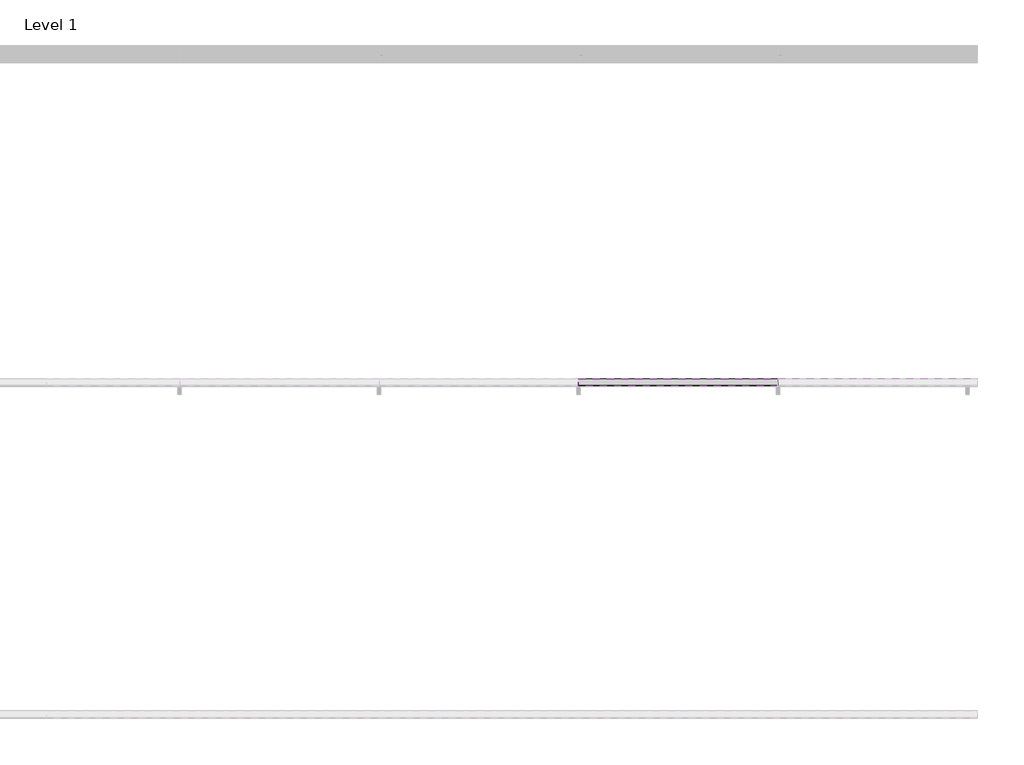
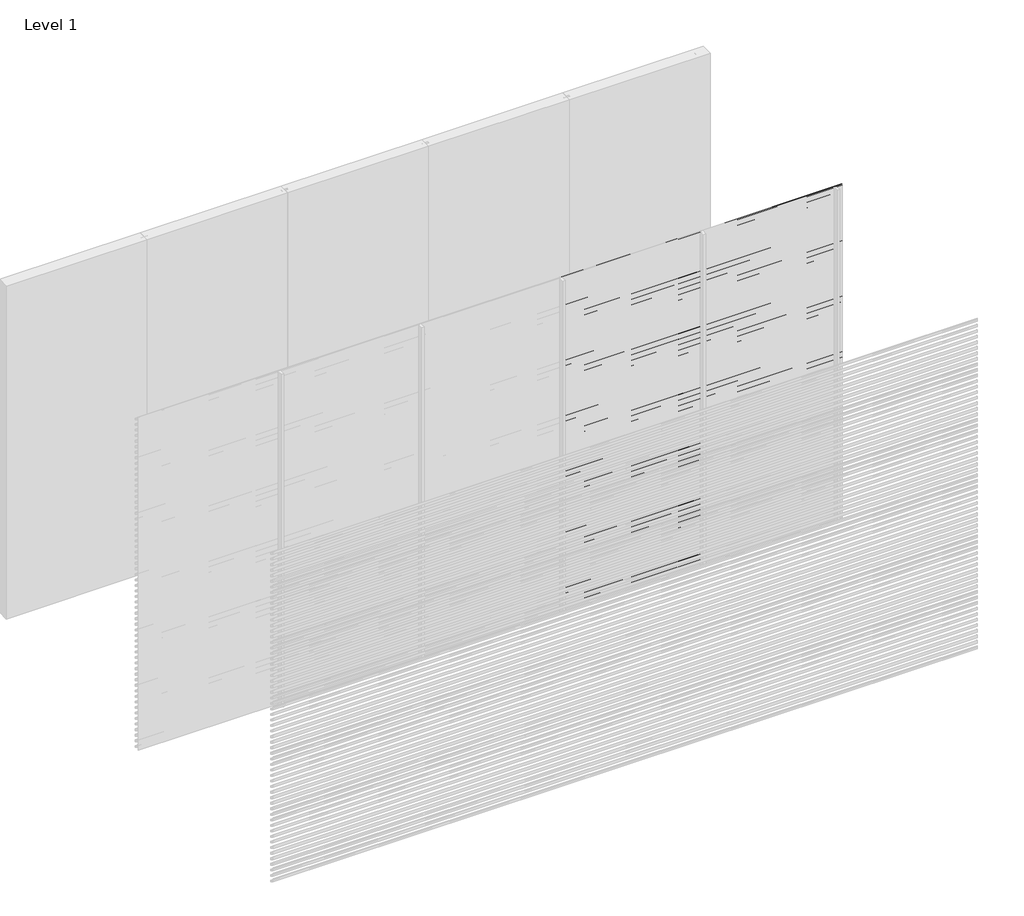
# One storey, part 12 of 16: 93 proxies.
"""IFC4 building model written with IfcOpenShell, lengths in millimetres."""

import ifcopenshell
import ifcopenshell.guid

model = None  # the IFC model being written
_history = None  # IfcOwnerHistory: only IFC2X3 demands one
_inside = {}  # id of a spatial element -> (the spatial element, [elements in it])
_under = {}  # id of a project, library or spatial element -> (it, [spatial elements below it])
_declared = {}  # id of a project -> (the project, [libraries it declares])
_typed = {}  # id of a type object -> (the type object, [elements of that type])
_made_of = {}  # id of a material, layer set ... -> (it, [elements and type objects made of it])


def new_model(schema):
    """Start an empty IFC model of exactly this schema.

    Asked for "IFC4X3", IfcOpenShell would pick the latest addendum, in which some entities
    have other attributes; the version numbers below select the first issue.
    IFC2X3 requires an IfcOwnerHistory on every rooted entity: one is made here for all.
    """
    global model, _history
    if schema == "IFC4X3":
        model = ifcopenshell.file(schema_version=(4, 3, 0, 0))
    else:
        model = ifcopenshell.file(schema=schema)
    _inside.clear()
    _under.clear()
    _declared.clear()
    _typed.clear()
    _made_of.clear()
    _history = None
    if model.schema == "IFC2X3":
        org = make("IfcOrganization", Name="unknown")
        user = make(
            "IfcPersonAndOrganization",
            ThePerson=make("IfcPerson", FamilyName="unknown"),
            TheOrganization=org,
        )
        app = make(
            "IfcApplication",
            ApplicationDeveloper=org,
            Version="unknown",
            ApplicationFullName="unknown",
            ApplicationIdentifier="unknown",
        )
        _history = make(
            "IfcOwnerHistory",
            OwningUser=user,
            OwningApplication=app,
            ChangeAction="ADDED",
            CreationDate=0,
        )
    return model


def make(cls, **values):
    """One entity of the class cls with the attributes given. An attribute that is None is left unset."""
    return model.create_entity(
        cls, **{name: value for name, value in values.items() if value is not None}
    )


def rooted(cls, **values):
    """An entity with a GlobalId (a new one), such as an element, a storey or a relation."""
    return make(cls, GlobalId=ifcopenshell.guid.new(), OwnerHistory=_history, **values)


def si_unit(unit_type, name, prefix=None):
    """IfcSIUnit, for example si_unit("LENGTHUNIT", "METRE", prefix="MILLI")."""
    return make("IfcSIUnit", UnitType=unit_type, Prefix=prefix, Name=name)


def assignment(units):
    """IfcUnitAssignment: the units of a project."""
    return None if units is None else make("IfcUnitAssignment", Units=units)


def point(xyz):
    """IfcCartesianPoint."""
    return None if xyz is None else make("IfcCartesianPoint", Coordinates=xyz)


def direction(xyz):
    """IfcDirection."""
    return None if xyz is None else make("IfcDirection", DirectionRatios=xyz)


def frame(location, z_axis=None, x_axis=None):
    """IfcAxis2Placement3D, a coordinate frame: its origin and axes. An axis left out is left unset."""
    return make(
        "IfcAxis2Placement3D",
        Location=point(location),
        Axis=direction(z_axis),
        RefDirection=direction(x_axis),
    )


def origin():
    """The frame at (0, 0, 0) with its axes left unset."""
    return frame((0.0, 0.0, 0.0))


def place(relative_to, where):
    """IfcLocalPlacement: puts the frame where relative to a parent placement (None: the world)."""
    return make(
        "IfcLocalPlacement", PlacementRelTo=relative_to, RelativePlacement=where
    )


def context(
    kind, dimensions, precision=None, world=None, true_north=None, identifier=None
):
    """IfcGeometricRepresentationContext, for example the 3D "Model" context."""
    return make(
        "IfcGeometricRepresentationContext",
        ContextIdentifier=identifier,
        ContextType=kind,
        CoordinateSpaceDimension=dimensions,
        Precision=precision,
        WorldCoordinateSystem=world,
        TrueNorth=true_north,
    )


def project(units=None, contexts=None):
    """IfcProject with its units and contexts."""
    return rooted(
        "IfcProject",
        Name="project",
        RepresentationContexts=contexts,
        UnitsInContext=assignment(units),
    )


def spatial(cls, under=None, at=None, **own):
    """A site, building, storey or space (cls), placed at a placement, below another one or the project."""
    s = rooted(cls, ObjectPlacement=at, **own)
    if under is not None:
        _under.setdefault(under.id(), (under, []))[1].append(s)
    return s


def polyline(points):
    """IfcPolyline through the points."""
    return make("IfcPolyline", Points=[point(p) for p in points])


def outline(outer, holes=None, kind="AREA"):
    """IfcArbitraryClosedProfileDef: a profile drawn as a closed curve; with holes, ...WithVoids."""
    if holes is None:
        return make("IfcArbitraryClosedProfileDef", ProfileType=kind, OuterCurve=outer)
    return make(
        "IfcArbitraryProfileDefWithVoids",
        ProfileType=kind,
        OuterCurve=outer,
        InnerCurves=holes,
    )


def extrude(swept, where, along, depth):
    """IfcExtrudedAreaSolid: the profile swept, set in the frame where, extruded along a direction by depth."""
    return make(
        "IfcExtrudedAreaSolid",
        SweptArea=swept,
        Position=where,
        ExtrudedDirection=direction(along),
        Depth=depth,
    )


def shape(context_of_items, identifier, shape_type, items):
    """IfcShapeRepresentation: the items that make up one representation, for example the "Body"."""
    return make(
        "IfcShapeRepresentation",
        ContextOfItems=context_of_items,
        RepresentationIdentifier=identifier,
        RepresentationType=shape_type,
        Items=items,
    )


def made_of(thing, what):
    """Note that an element or type object is made of a material, layer set ...; save() writes the relation."""
    if what is not None:
        _made_of.setdefault(what.id(), (what, []))[1].append(thing)
    return thing


def element(
    cls,
    number,
    at=None,
    inside=None,
    cuts=None,
    type_object=None,
    material=None,
    context=None,
    identifier="Body",
    shape_type=None,
    held_by="IfcProductDefinitionShape",
    body=None,
    shapes=None,
    **own,
):
    """One element of the class cls, such as IfcWall. Its Tag is "e" and its number.

    at: its placement. inside: the storey or other place that contains it. cuts: it is an
    opening in that element (IfcRelVoidsElement). A single representation is given by context,
    identifier, shape_type and body (its items); several are given by shapes. held_by: the class
    of the entity that holds the representations. save() writes the other relations.
    """
    e = rooted(cls, Tag="e%d" % number, ObjectPlacement=at, **own)
    if body is not None:
        shapes = [shape(context, identifier, shape_type, body)]
    if shapes is not None:
        e.Representation = make(held_by, Representations=shapes)
    if inside is not None:
        _inside.setdefault(inside.id(), (inside, []))[1].append(e)
    if cuts is not None:
        rooted(
            "IfcRelVoidsElement", RelatingBuildingElement=cuts, RelatedOpeningElement=e
        )
    if type_object is not None:
        _typed.setdefault(type_object.id(), (type_object, []))[1].append(e)
    return made_of(e, material)


def aggregate(whole, parts):
    """IfcRelAggregates: a whole, such as a stair, and the parts it consists of."""
    return rooted("IfcRelAggregates", RelatingObject=whole, RelatedObjects=parts)


def save(model, path):
    """Write the relations noted so far, then the file.

    IfcRelAggregates (storeys below a building ...), IfcRelContainedInSpatialStructure (elements
    in a storey), IfcRelDefinesByType, IfcRelAssociatesMaterial and IfcRelDeclares: one each for
    every whole, place, type object, material and project.
    """
    for whole, parts in _under.values():
        aggregate(whole, parts)
    for where, things in _inside.values():
        rooted(
            "IfcRelContainedInSpatialStructure",
            RelatedElements=things,
            RelatingStructure=where,
        )
    for kind, things in _typed.values():
        rooted("IfcRelDefinesByType", RelatedObjects=things, RelatingType=kind)
    for what, things in _made_of.values():
        rooted("IfcRelAssociatesMaterial", RelatedObjects=things, RelatingMaterial=what)
    for by, libraries in _declared.values():
        rooted("IfcRelDeclares", RelatingContext=by, RelatedDefinitions=libraries)
    model.write(path)


model = new_model("IFC4")

# Units and contexts
model_context = context("Model", 3, world=origin())
ifc_project = project(units=[si_unit("LENGTHUNIT", "METRE", prefix="MILLI")], contexts=[model_context])

# Site, building, storey
site = spatial("IfcSite", under=ifc_project)
building = spatial("IfcBuilding", under=site)
storey = spatial("IfcBuildingStorey", under=building, Name="Level 1", Elevation=0.0)

# Proxies
placement = place(None, origin())
element("IfcBuildingElementProxy", 1, Name="Wall Sweeps", at=placement, inside=storey, context=model_context, shape_type="SweptSolid", body=[
    extrude(outline(polyline([(-5995.0, 50.0), (-5995.0, 39.6352854), (-5954.0, 15.0), (-5954.0, 0.0), (-5997.0, 25.8370066), (-5997.0, 50.0), (-5995.0, 50.0)])), frame((2400.0, 0.0, 0.0), z_axis=(1.0, 0.0, 0.0), x_axis=(0.0, 1.0, 0.0)), (0.0, 0.0, 1.0), 1200.0),
])
element("IfcBuildingElementProxy", 2, Name="Wall Sweeps", at=placement, inside=storey, context=model_context, shape_type="SweptSolid", body=[
    extrude(outline(polyline([(-5995.0, 3000.0), (-5995.0, 2989.6352854), (-5954.0, 2965.0), (-5954.0, 2950.0), (-5997.0, 2975.8370066), (-5997.0, 3000.0), (-5995.0, 3000.0)])), frame((3600.0, 0.0, 0.0), z_axis=(1.0, 0.0, 0.0), x_axis=(0.0, 1.0, 0.0)), (0.0, 0.0, 1.0), 1200.0),
])
element("IfcBuildingElementProxy", 3, Name="Wall Sweeps", at=placement, inside=storey, context=model_context, shape_type="SweptSolid", body=[
    extrude(outline(polyline([(-5995.0, 2950.0), (-5995.0, 2939.6352854), (-5954.0, 2915.0), (-5954.0, 2900.0), (-5997.0, 2925.8370066), (-5997.0, 2950.0), (-5995.0, 2950.0)])), frame((3600.0, 0.0, 0.0), z_axis=(1.0, 0.0, 0.0), x_axis=(0.0, 1.0, 0.0)), (0.0, 0.0, 1.0), 1200.0),
])
element("IfcBuildingElementProxy", 4, Name="Wall Sweeps", at=placement, inside=storey, context=model_context, shape_type="SweptSolid", body=[
    extrude(outline(polyline([(-5995.0, 2900.0), (-5995.0, 2889.6352854), (-5954.0, 2865.0), (-5954.0, 2850.0), (-5997.0, 2875.8370066), (-5997.0, 2900.0), (-5995.0, 2900.0)])), frame((3600.0, 0.0, 0.0), z_axis=(1.0, 0.0, 0.0), x_axis=(0.0, 1.0, 0.0)), (0.0, 0.0, 1.0), 1200.0),
])
element("IfcBuildingElementProxy", 5, Name="Wall Sweeps", at=placement, inside=storey, context=model_context, shape_type="SweptSolid", body=[
    extrude(outline(polyline([(-5995.0, 2850.0), (-5995.0, 2839.6352854), (-5954.0, 2815.0), (-5954.0, 2800.0), (-5997.0, 2825.8370066), (-5997.0, 2850.0), (-5995.0, 2850.0)])), frame((3600.0, 0.0, 0.0), z_axis=(1.0, 0.0, 0.0), x_axis=(0.0, 1.0, 0.0)), (0.0, 0.0, 1.0), 1200.0),
])
element("IfcBuildingElementProxy", 6, Name="Wall Sweeps", at=placement, inside=storey, context=model_context, shape_type="SweptSolid", body=[
    extrude(outline(polyline([(-5995.0, 2800.0), (-5995.0, 2789.6352854), (-5954.0, 2765.0), (-5954.0, 2750.0), (-5997.0, 2775.8370066), (-5997.0, 2800.0), (-5995.0, 2800.0)])), frame((3600.0, 0.0, 0.0), z_axis=(1.0, 0.0, 0.0), x_axis=(0.0, 1.0, 0.0)), (0.0, 0.0, 1.0), 1200.0),
])
element("IfcBuildingElementProxy", 7, Name="Wall Sweeps", at=placement, inside=storey, context=model_context, shape_type="SweptSolid", body=[
    extrude(outline(polyline([(-5995.0, 2750.0), (-5995.0, 2739.6352854), (-5954.0, 2715.0), (-5954.0, 2700.0), (-5997.0, 2725.8370066), (-5997.0, 2750.0), (-5995.0, 2750.0)])), frame((3600.0, 0.0, 0.0), z_axis=(1.0, 0.0, 0.0), x_axis=(0.0, 1.0, 0.0)), (0.0, 0.0, 1.0), 1200.0),
])
element("IfcBuildingElementProxy", 8, Name="Wall Sweeps", at=placement, inside=storey, context=model_context, shape_type="SweptSolid", body=[
    extrude(outline(polyline([(-5995.0, 2700.0), (-5995.0, 2689.6352854), (-5954.0, 2665.0), (-5954.0, 2650.0), (-5997.0, 2675.8370066), (-5997.0, 2700.0), (-5995.0, 2700.0)])), frame((3600.0, 0.0, 0.0), z_axis=(1.0, 0.0, 0.0), x_axis=(0.0, 1.0, 0.0)), (0.0, 0.0, 1.0), 1200.0),
])
element("IfcBuildingElementProxy", 9, Name="Wall Sweeps", at=placement, inside=storey, context=model_context, shape_type="SweptSolid", body=[
    extrude(outline(polyline([(-5995.0, 2650.0), (-5995.0, 2639.6352854), (-5954.0, 2615.0), (-5954.0, 2600.0), (-5997.0, 2625.8370066), (-5997.0, 2650.0), (-5995.0, 2650.0)])), frame((3600.0, 0.0, 0.0), z_axis=(1.0, 0.0, 0.0), x_axis=(0.0, 1.0, 0.0)), (0.0, 0.0, 1.0), 1200.0),
])
element("IfcBuildingElementProxy", 10, Name="Wall Sweeps", at=placement, inside=storey, context=model_context, shape_type="SweptSolid", body=[
    extrude(outline(polyline([(-5995.0, 2600.0), (-5995.0, 2589.6352854), (-5954.0, 2565.0), (-5954.0, 2550.0), (-5997.0, 2575.8370066), (-5997.0, 2600.0), (-5995.0, 2600.0)])), frame((3600.0, 0.0, 0.0), z_axis=(1.0, 0.0, 0.0), x_axis=(0.0, 1.0, 0.0)), (0.0, 0.0, 1.0), 1200.0),
])
element("IfcBuildingElementProxy", 11, Name="Wall Sweeps", at=placement, inside=storey, context=model_context, shape_type="SweptSolid", body=[
    extrude(outline(polyline([(-5995.0, 2550.0), (-5995.0, 2539.6352854), (-5954.0, 2515.0), (-5954.0, 2500.0), (-5997.0, 2525.8370066), (-5997.0, 2550.0), (-5995.0, 2550.0)])), frame((3600.0, 0.0, 0.0), z_axis=(1.0, 0.0, 0.0), x_axis=(0.0, 1.0, 0.0)), (0.0, 0.0, 1.0), 1200.0),
])
element("IfcBuildingElementProxy", 12, Name="Wall Sweeps", at=placement, inside=storey, context=model_context, shape_type="SweptSolid", body=[
    extrude(outline(polyline([(-5995.0, 2500.0), (-5995.0, 2489.6352854), (-5954.0, 2465.0), (-5954.0, 2450.0), (-5997.0, 2475.8370066), (-5997.0, 2500.0), (-5995.0, 2500.0)])), frame((3600.0, 0.0, 0.0), z_axis=(1.0, 0.0, 0.0), x_axis=(0.0, 1.0, 0.0)), (0.0, 0.0, 1.0), 1200.0),
])
element("IfcBuildingElementProxy", 13, Name="Wall Sweeps", at=placement, inside=storey, context=model_context, shape_type="SweptSolid", body=[
    extrude(outline(polyline([(-5995.0, 2450.0), (-5995.0, 2439.6352854), (-5954.0, 2415.0), (-5954.0, 2400.0), (-5997.0, 2425.8370066), (-5997.0, 2450.0), (-5995.0, 2450.0)])), frame((3600.0, 0.0, 0.0), z_axis=(1.0, 0.0, 0.0), x_axis=(0.0, 1.0, 0.0)), (0.0, 0.0, 1.0), 1200.0),
])
element("IfcBuildingElementProxy", 14, Name="Wall Sweeps", at=placement, inside=storey, context=model_context, shape_type="SweptSolid", body=[
    extrude(outline(polyline([(-5995.0, 2400.0), (-5995.0, 2389.6352854), (-5954.0, 2365.0), (-5954.0, 2350.0), (-5997.0, 2375.8370066), (-5997.0, 2400.0), (-5995.0, 2400.0)])), frame((3600.0, 0.0, 0.0), z_axis=(1.0, 0.0, 0.0), x_axis=(0.0, 1.0, 0.0)), (0.0, 0.0, 1.0), 1200.0),
])
element("IfcBuildingElementProxy", 15, Name="Wall Sweeps", at=placement, inside=storey, context=model_context, shape_type="SweptSolid", body=[
    extrude(outline(polyline([(-5995.0, 2350.0), (-5995.0, 2339.6352854), (-5954.0, 2315.0), (-5954.0, 2300.0), (-5997.0, 2325.8370066), (-5997.0, 2350.0), (-5995.0, 2350.0)])), frame((3600.0, 0.0, 0.0), z_axis=(1.0, 0.0, 0.0), x_axis=(0.0, 1.0, 0.0)), (0.0, 0.0, 1.0), 1200.0),
])
element("IfcBuildingElementProxy", 16, Name="Wall Sweeps", at=placement, inside=storey, context=model_context, shape_type="SweptSolid", body=[
    extrude(outline(polyline([(-5995.0, 2300.0), (-5995.0, 2289.6352854), (-5954.0, 2265.0), (-5954.0, 2250.0), (-5997.0, 2275.8370066), (-5997.0, 2300.0), (-5995.0, 2300.0)])), frame((3600.0, 0.0, 0.0), z_axis=(1.0, 0.0, 0.0), x_axis=(0.0, 1.0, 0.0)), (0.0, 0.0, 1.0), 1200.0),
])
element("IfcBuildingElementProxy", 17, Name="Wall Sweeps", at=placement, inside=storey, context=model_context, shape_type="SweptSolid", body=[
    extrude(outline(polyline([(-5995.0, 2250.0), (-5995.0, 2239.6352854), (-5954.0, 2215.0), (-5954.0, 2200.0), (-5997.0, 2225.8370066), (-5997.0, 2250.0), (-5995.0, 2250.0)])), frame((3600.0, 0.0, 0.0), z_axis=(1.0, 0.0, 0.0), x_axis=(0.0, 1.0, 0.0)), (0.0, 0.0, 1.0), 1200.0),
])
element("IfcBuildingElementProxy", 18, Name="Wall Sweeps", at=placement, inside=storey, context=model_context, shape_type="SweptSolid", body=[
    extrude(outline(polyline([(-5995.0, 2200.0), (-5995.0, 2189.6352854), (-5954.0, 2165.0), (-5954.0, 2150.0), (-5997.0, 2175.8370066), (-5997.0, 2200.0), (-5995.0, 2200.0)])), frame((3600.0, 0.0, 0.0), z_axis=(1.0, 0.0, 0.0), x_axis=(0.0, 1.0, 0.0)), (0.0, 0.0, 1.0), 1200.0),
])
element("IfcBuildingElementProxy", 19, Name="Wall Sweeps", at=placement, inside=storey, context=model_context, shape_type="SweptSolid", body=[
    extrude(outline(polyline([(-5995.0, 2150.0), (-5995.0, 2139.6352854), (-5954.0, 2115.0), (-5954.0, 2100.0), (-5997.0, 2125.8370066), (-5997.0, 2150.0), (-5995.0, 2150.0)])), frame((3600.0, 0.0, 0.0), z_axis=(1.0, 0.0, 0.0), x_axis=(0.0, 1.0, 0.0)), (0.0, 0.0, 1.0), 1200.0),
])
element("IfcBuildingElementProxy", 20, Name="Wall Sweeps", at=placement, inside=storey, context=model_context, shape_type="SweptSolid", body=[
    extrude(outline(polyline([(-5995.0, 2100.0), (-5995.0, 2089.6352854), (-5954.0, 2065.0), (-5954.0, 2050.0), (-5997.0, 2075.8370066), (-5997.0, 2100.0), (-5995.0, 2100.0)])), frame((3600.0, 0.0, 0.0), z_axis=(1.0, 0.0, 0.0), x_axis=(0.0, 1.0, 0.0)), (0.0, 0.0, 1.0), 1200.0),
])
element("IfcBuildingElementProxy", 21, Name="Wall Sweeps", at=placement, inside=storey, context=model_context, shape_type="SweptSolid", body=[
    extrude(outline(polyline([(-5995.0, 2050.0), (-5995.0, 2039.6352854), (-5954.0, 2015.0), (-5954.0, 2000.0), (-5997.0, 2025.8370066), (-5997.0, 2050.0), (-5995.0, 2050.0)])), frame((3600.0, 0.0, 0.0), z_axis=(1.0, 0.0, 0.0), x_axis=(0.0, 1.0, 0.0)), (0.0, 0.0, 1.0), 1200.0),
])
element("IfcBuildingElementProxy", 22, Name="Wall Sweeps", at=placement, inside=storey, context=model_context, shape_type="SweptSolid", body=[
    extrude(outline(polyline([(-5995.0, 2000.0), (-5995.0, 1989.6352854), (-5954.0, 1965.0), (-5954.0, 1950.0), (-5997.0, 1975.8370066), (-5997.0, 2000.0), (-5995.0, 2000.0)])), frame((3600.0, 0.0, 0.0), z_axis=(1.0, 0.0, 0.0), x_axis=(0.0, 1.0, 0.0)), (0.0, 0.0, 1.0), 1200.0),
])
element("IfcBuildingElementProxy", 23, Name="Wall Sweeps", at=placement, inside=storey, context=model_context, shape_type="SweptSolid", body=[
    extrude(outline(polyline([(-5995.0, 1950.0), (-5995.0, 1939.6352854), (-5954.0, 1915.0), (-5954.0, 1900.0), (-5997.0, 1925.8370066), (-5997.0, 1950.0), (-5995.0, 1950.0)])), frame((3600.0, 0.0, 0.0), z_axis=(1.0, 0.0, 0.0), x_axis=(0.0, 1.0, 0.0)), (0.0, 0.0, 1.0), 1200.0),
])
element("IfcBuildingElementProxy", 24, Name="Wall Sweeps", at=placement, inside=storey, context=model_context, shape_type="SweptSolid", body=[
    extrude(outline(polyline([(-5995.0, 1900.0), (-5995.0, 1889.6352854), (-5954.0, 1865.0), (-5954.0, 1850.0), (-5997.0, 1875.8370066), (-5997.0, 1900.0), (-5995.0, 1900.0)])), frame((3600.0, 0.0, 0.0), z_axis=(1.0, 0.0, 0.0), x_axis=(0.0, 1.0, 0.0)), (0.0, 0.0, 1.0), 1200.0),
])
element("IfcBuildingElementProxy", 25, Name="Wall Sweeps", at=placement, inside=storey, context=model_context, shape_type="SweptSolid", body=[
    extrude(outline(polyline([(-5995.0, 1850.0), (-5995.0, 1839.6352854), (-5954.0, 1815.0), (-5954.0, 1800.0), (-5997.0, 1825.8370066), (-5997.0, 1850.0), (-5995.0, 1850.0)])), frame((3600.0, 0.0, 0.0), z_axis=(1.0, 0.0, 0.0), x_axis=(0.0, 1.0, 0.0)), (0.0, 0.0, 1.0), 1200.0),
])
element("IfcBuildingElementProxy", 26, Name="Wall Sweeps", at=placement, inside=storey, context=model_context, shape_type="SweptSolid", body=[
    extrude(outline(polyline([(-5995.0, 1800.0), (-5995.0, 1789.6352854), (-5954.0, 1765.0), (-5954.0, 1750.0), (-5997.0, 1775.8370066), (-5997.0, 1800.0), (-5995.0, 1800.0)])), frame((3600.0, 0.0, 0.0), z_axis=(1.0, 0.0, 0.0), x_axis=(0.0, 1.0, 0.0)), (0.0, 0.0, 1.0), 1200.0),
])
element("IfcBuildingElementProxy", 27, Name="Wall Sweeps", at=placement, inside=storey, context=model_context, shape_type="SweptSolid", body=[
    extrude(outline(polyline([(-5995.0, 1750.0), (-5995.0, 1739.6352854), (-5954.0, 1715.0), (-5954.0, 1700.0), (-5997.0, 1725.8370066), (-5997.0, 1750.0), (-5995.0, 1750.0)])), frame((3600.0, 0.0, 0.0), z_axis=(1.0, 0.0, 0.0), x_axis=(0.0, 1.0, 0.0)), (0.0, 0.0, 1.0), 1200.0),
])
element("IfcBuildingElementProxy", 28, Name="Wall Sweeps", at=placement, inside=storey, context=model_context, shape_type="SweptSolid", body=[
    extrude(outline(polyline([(-5995.0, 1700.0), (-5995.0, 1689.6352854), (-5954.0, 1665.0), (-5954.0, 1650.0), (-5997.0, 1675.8370066), (-5997.0, 1700.0), (-5995.0, 1700.0)])), frame((3600.0, 0.0, 0.0), z_axis=(1.0, 0.0, 0.0), x_axis=(0.0, 1.0, 0.0)), (0.0, 0.0, 1.0), 1200.0),
])
element("IfcBuildingElementProxy", 29, Name="Wall Sweeps", at=placement, inside=storey, context=model_context, shape_type="SweptSolid", body=[
    extrude(outline(polyline([(-5995.0, 1650.0), (-5995.0, 1639.6352854), (-5954.0, 1615.0), (-5954.0, 1600.0), (-5997.0, 1625.8370066), (-5997.0, 1650.0), (-5995.0, 1650.0)])), frame((3600.0, 0.0, 0.0), z_axis=(1.0, 0.0, 0.0), x_axis=(0.0, 1.0, 0.0)), (0.0, 0.0, 1.0), 1200.0),
])
element("IfcBuildingElementProxy", 30, Name="Wall Sweeps", at=placement, inside=storey, context=model_context, shape_type="SweptSolid", body=[
    extrude(outline(polyline([(-5995.0, 1600.0), (-5995.0, 1589.6352854), (-5954.0, 1565.0), (-5954.0, 1550.0), (-5997.0, 1575.8370066), (-5997.0, 1600.0), (-5995.0, 1600.0)])), frame((3600.0, 0.0, 0.0), z_axis=(1.0, 0.0, 0.0), x_axis=(0.0, 1.0, 0.0)), (0.0, 0.0, 1.0), 1200.0),
])
element("IfcBuildingElementProxy", 31, Name="Wall Sweeps", at=placement, inside=storey, context=model_context, shape_type="SweptSolid", body=[
    extrude(outline(polyline([(-5995.0, 1550.0), (-5995.0, 1539.6352854), (-5954.0, 1515.0), (-5954.0, 1500.0), (-5997.0, 1525.8370066), (-5997.0, 1550.0), (-5995.0, 1550.0)])), frame((3600.0, 0.0, 0.0), z_axis=(1.0, 0.0, 0.0), x_axis=(0.0, 1.0, 0.0)), (0.0, 0.0, 1.0), 1200.0),
])
element("IfcBuildingElementProxy", 32, Name="Wall Sweeps", at=placement, inside=storey, context=model_context, shape_type="SweptSolid", body=[
    extrude(outline(polyline([(-5995.0, 1500.0), (-5995.0, 1489.6352854), (-5954.0, 1465.0), (-5954.0, 1450.0), (-5997.0, 1475.8370066), (-5997.0, 1500.0), (-5995.0, 1500.0)])), frame((3600.0, 0.0, 0.0), z_axis=(1.0, 0.0, 0.0), x_axis=(0.0, 1.0, 0.0)), (0.0, 0.0, 1.0), 1200.0),
])
element("IfcBuildingElementProxy", 33, Name="Wall Sweeps", at=placement, inside=storey, context=model_context, shape_type="SweptSolid", body=[
    extrude(outline(polyline([(-5995.0, 1450.0), (-5995.0, 1439.6352854), (-5954.0, 1415.0), (-5954.0, 1400.0), (-5997.0, 1425.8370066), (-5997.0, 1450.0), (-5995.0, 1450.0)])), frame((3600.0, 0.0, 0.0), z_axis=(1.0, 0.0, 0.0), x_axis=(0.0, 1.0, 0.0)), (0.0, 0.0, 1.0), 1200.0),
])
element("IfcBuildingElementProxy", 34, Name="Wall Sweeps", at=placement, inside=storey, context=model_context, shape_type="SweptSolid", body=[
    extrude(outline(polyline([(-5995.0, 1400.0), (-5995.0, 1389.6352854), (-5954.0, 1365.0), (-5954.0, 1350.0), (-5997.0, 1375.8370066), (-5997.0, 1400.0), (-5995.0, 1400.0)])), frame((3600.0, 0.0, 0.0), z_axis=(1.0, 0.0, 0.0), x_axis=(0.0, 1.0, 0.0)), (0.0, 0.0, 1.0), 1200.0),
])
element("IfcBuildingElementProxy", 35, Name="Wall Sweeps", at=placement, inside=storey, context=model_context, shape_type="SweptSolid", body=[
    extrude(outline(polyline([(-5995.0, 1350.0), (-5995.0, 1339.6352854), (-5954.0, 1315.0), (-5954.0, 1300.0), (-5997.0, 1325.8370066), (-5997.0, 1350.0), (-5995.0, 1350.0)])), frame((3600.0, 0.0, 0.0), z_axis=(1.0, 0.0, 0.0), x_axis=(0.0, 1.0, 0.0)), (0.0, 0.0, 1.0), 1200.0),
])
element("IfcBuildingElementProxy", 36, Name="Wall Sweeps", at=placement, inside=storey, context=model_context, shape_type="SweptSolid", body=[
    extrude(outline(polyline([(-5995.0, 1300.0), (-5995.0, 1289.6352854), (-5954.0, 1265.0), (-5954.0, 1250.0), (-5997.0, 1275.8370066), (-5997.0, 1300.0), (-5995.0, 1300.0)])), frame((3600.0, 0.0, 0.0), z_axis=(1.0, 0.0, 0.0), x_axis=(0.0, 1.0, 0.0)), (0.0, 0.0, 1.0), 1200.0),
])
element("IfcBuildingElementProxy", 37, Name="Wall Sweeps", at=placement, inside=storey, context=model_context, shape_type="SweptSolid", body=[
    extrude(outline(polyline([(-5995.0, 1250.0), (-5995.0, 1239.6352854), (-5954.0, 1215.0), (-5954.0, 1200.0), (-5997.0, 1225.8370066), (-5997.0, 1250.0), (-5995.0, 1250.0)])), frame((3600.0, 0.0, 0.0), z_axis=(1.0, 0.0, 0.0), x_axis=(0.0, 1.0, 0.0)), (0.0, 0.0, 1.0), 1200.0),
])
element("IfcBuildingElementProxy", 38, Name="Wall Sweeps", at=placement, inside=storey, context=model_context, shape_type="SweptSolid", body=[
    extrude(outline(polyline([(-5995.0, 1200.0), (-5995.0, 1189.6352854), (-5954.0, 1165.0), (-5954.0, 1150.0), (-5997.0, 1175.8370066), (-5997.0, 1200.0), (-5995.0, 1200.0)])), frame((3600.0, 0.0, 0.0), z_axis=(1.0, 0.0, 0.0), x_axis=(0.0, 1.0, 0.0)), (0.0, 0.0, 1.0), 1200.0),
])
element("IfcBuildingElementProxy", 39, Name="Wall Sweeps", at=placement, inside=storey, context=model_context, shape_type="SweptSolid", body=[
    extrude(outline(polyline([(-5995.0, 1150.0), (-5995.0, 1139.6352854), (-5954.0, 1115.0), (-5954.0, 1100.0), (-5997.0, 1125.8370066), (-5997.0, 1150.0), (-5995.0, 1150.0)])), frame((3600.0, 0.0, 0.0), z_axis=(1.0, 0.0, 0.0), x_axis=(0.0, 1.0, 0.0)), (0.0, 0.0, 1.0), 1200.0),
])
element("IfcBuildingElementProxy", 40, Name="Wall Sweeps", at=placement, inside=storey, context=model_context, shape_type="SweptSolid", body=[
    extrude(outline(polyline([(-5995.0, 1100.0), (-5995.0, 1089.6352854), (-5954.0, 1065.0), (-5954.0, 1050.0), (-5997.0, 1075.8370066), (-5997.0, 1100.0), (-5995.0, 1100.0)])), frame((3600.0, 0.0, 0.0), z_axis=(1.0, 0.0, 0.0), x_axis=(0.0, 1.0, 0.0)), (0.0, 0.0, 1.0), 1200.0),
])
element("IfcBuildingElementProxy", 41, Name="Wall Sweeps", at=placement, inside=storey, context=model_context, shape_type="SweptSolid", body=[
    extrude(outline(polyline([(-5995.0, 1050.0), (-5995.0, 1039.6352854), (-5954.0, 1015.0), (-5954.0, 1000.0), (-5997.0, 1025.8370066), (-5997.0, 1050.0), (-5995.0, 1050.0)])), frame((3600.0, 0.0, 0.0), z_axis=(1.0, 0.0, 0.0), x_axis=(0.0, 1.0, 0.0)), (0.0, 0.0, 1.0), 1200.0),
])
element("IfcBuildingElementProxy", 42, Name="Wall Sweeps", at=placement, inside=storey, context=model_context, shape_type="SweptSolid", body=[
    extrude(outline(polyline([(-5995.0, 1000.0), (-5995.0, 989.6352854), (-5954.0, 965.0), (-5954.0, 950.0), (-5997.0, 975.8370066), (-5997.0, 1000.0), (-5995.0, 1000.0)])), frame((3600.0, 0.0, 0.0), z_axis=(1.0, 0.0, 0.0), x_axis=(0.0, 1.0, 0.0)), (0.0, 0.0, 1.0), 1200.0),
])
element("IfcBuildingElementProxy", 43, Name="Wall Sweeps", at=placement, inside=storey, context=model_context, shape_type="SweptSolid", body=[
    extrude(outline(polyline([(-5995.0, 950.0), (-5995.0, 939.6352854), (-5954.0, 915.0), (-5954.0, 900.0), (-5997.0, 925.8370066), (-5997.0, 950.0), (-5995.0, 950.0)])), frame((3600.0, 0.0, 0.0), z_axis=(1.0, 0.0, 0.0), x_axis=(0.0, 1.0, 0.0)), (0.0, 0.0, 1.0), 1200.0),
])
element("IfcBuildingElementProxy", 44, Name="Wall Sweeps", at=placement, inside=storey, context=model_context, shape_type="SweptSolid", body=[
    extrude(outline(polyline([(-5995.0, 900.0), (-5995.0, 889.6352854), (-5954.0, 865.0), (-5954.0, 850.0), (-5997.0, 875.8370066), (-5997.0, 900.0), (-5995.0, 900.0)])), frame((3600.0, 0.0, 0.0), z_axis=(1.0, 0.0, 0.0), x_axis=(0.0, 1.0, 0.0)), (0.0, 0.0, 1.0), 1200.0),
])
element("IfcBuildingElementProxy", 45, Name="Wall Sweeps", at=placement, inside=storey, context=model_context, shape_type="SweptSolid", body=[
    extrude(outline(polyline([(-5995.0, 850.0), (-5995.0, 839.6352854), (-5954.0, 815.0), (-5954.0, 800.0), (-5997.0, 825.8370066), (-5997.0, 850.0), (-5995.0, 850.0)])), frame((3600.0, 0.0, 0.0), z_axis=(1.0, 0.0, 0.0), x_axis=(0.0, 1.0, 0.0)), (0.0, 0.0, 1.0), 1200.0),
])
element("IfcBuildingElementProxy", 46, Name="Wall Sweeps", at=placement, inside=storey, context=model_context, shape_type="SweptSolid", body=[
    extrude(outline(polyline([(-5995.0, 800.0), (-5995.0, 789.6352854), (-5954.0, 765.0), (-5954.0, 750.0), (-5997.0, 775.8370066), (-5997.0, 800.0), (-5995.0, 800.0)])), frame((3600.0, 0.0, 0.0), z_axis=(1.0, 0.0, 0.0), x_axis=(0.0, 1.0, 0.0)), (0.0, 0.0, 1.0), 1200.0),
])
element("IfcBuildingElementProxy", 47, Name="Wall Sweeps", at=placement, inside=storey, context=model_context, shape_type="SweptSolid", body=[
    extrude(outline(polyline([(-5995.0, 750.0), (-5995.0, 739.6352854), (-5954.0, 715.0), (-5954.0, 700.0), (-5997.0, 725.8370066), (-5997.0, 750.0), (-5995.0, 750.0)])), frame((3600.0, 0.0, 0.0), z_axis=(1.0, 0.0, 0.0), x_axis=(0.0, 1.0, 0.0)), (0.0, 0.0, 1.0), 1200.0),
])
element("IfcBuildingElementProxy", 48, Name="Wall Sweeps", at=placement, inside=storey, context=model_context, shape_type="SweptSolid", body=[
    extrude(outline(polyline([(-5995.0, 700.0), (-5995.0, 689.6352854), (-5954.0, 665.0), (-5954.0, 650.0), (-5997.0, 675.8370066), (-5997.0, 700.0), (-5995.0, 700.0)])), frame((3600.0, 0.0, 0.0), z_axis=(1.0, 0.0, 0.0), x_axis=(0.0, 1.0, 0.0)), (0.0, 0.0, 1.0), 1200.0),
])
element("IfcBuildingElementProxy", 49, Name="Wall Sweeps", at=placement, inside=storey, context=model_context, shape_type="SweptSolid", body=[
    extrude(outline(polyline([(-5995.0, 650.0), (-5995.0, 639.6352854), (-5954.0, 615.0), (-5954.0, 600.0), (-5997.0, 625.8370066), (-5997.0, 650.0), (-5995.0, 650.0)])), frame((3600.0, 0.0, 0.0), z_axis=(1.0, 0.0, 0.0), x_axis=(0.0, 1.0, 0.0)), (0.0, 0.0, 1.0), 1200.0),
])
element("IfcBuildingElementProxy", 50, Name="Wall Sweeps", at=placement, inside=storey, context=model_context, shape_type="SweptSolid", body=[
    extrude(outline(polyline([(-5995.0, 600.0), (-5995.0, 589.6352854), (-5954.0, 565.0), (-5954.0, 550.0), (-5997.0, 575.8370066), (-5997.0, 600.0), (-5995.0, 600.0)])), frame((3600.0, 0.0, 0.0), z_axis=(1.0, 0.0, 0.0), x_axis=(0.0, 1.0, 0.0)), (0.0, 0.0, 1.0), 1200.0),
])
element("IfcBuildingElementProxy", 51, Name="Wall Sweeps", at=placement, inside=storey, context=model_context, shape_type="SweptSolid", body=[
    extrude(outline(polyline([(-5995.0, 550.0), (-5995.0, 539.6352854), (-5954.0, 515.0), (-5954.0, 500.0), (-5997.0, 525.8370066), (-5997.0, 550.0), (-5995.0, 550.0)])), frame((3600.0, 0.0, 0.0), z_axis=(1.0, 0.0, 0.0), x_axis=(0.0, 1.0, 0.0)), (0.0, 0.0, 1.0), 1200.0),
])
element("IfcBuildingElementProxy", 52, Name="Wall Sweeps", at=placement, inside=storey, context=model_context, shape_type="SweptSolid", body=[
    extrude(outline(polyline([(-5995.0, 500.0), (-5995.0, 489.6352854), (-5954.0, 465.0), (-5954.0, 450.0), (-5997.0, 475.8370066), (-5997.0, 500.0), (-5995.0, 500.0)])), frame((3600.0, 0.0, 0.0), z_axis=(1.0, 0.0, 0.0), x_axis=(0.0, 1.0, 0.0)), (0.0, 0.0, 1.0), 1200.0),
])
element("IfcBuildingElementProxy", 53, Name="Wall Sweeps", at=placement, inside=storey, context=model_context, shape_type="SweptSolid", body=[
    extrude(outline(polyline([(-5995.0, 450.0), (-5995.0, 439.6352854), (-5954.0, 415.0), (-5954.0, 400.0), (-5997.0, 425.8370066), (-5997.0, 450.0), (-5995.0, 450.0)])), frame((3600.0, 0.0, 0.0), z_axis=(1.0, 0.0, 0.0), x_axis=(0.0, 1.0, 0.0)), (0.0, 0.0, 1.0), 1200.0),
])
element("IfcBuildingElementProxy", 54, Name="Wall Sweeps", at=placement, inside=storey, context=model_context, shape_type="SweptSolid", body=[
    extrude(outline(polyline([(-5995.0, 400.0), (-5995.0, 389.6352854), (-5954.0, 365.0), (-5954.0, 350.0), (-5997.0, 375.8370066), (-5997.0, 400.0), (-5995.0, 400.0)])), frame((3600.0, 0.0, 0.0), z_axis=(1.0, 0.0, 0.0), x_axis=(0.0, 1.0, 0.0)), (0.0, 0.0, 1.0), 1200.0),
])
element("IfcBuildingElementProxy", 55, Name="Wall Sweeps", at=placement, inside=storey, context=model_context, shape_type="SweptSolid", body=[
    extrude(outline(polyline([(-5995.0, 350.0), (-5995.0, 339.6352854), (-5954.0, 315.0), (-5954.0, 300.0), (-5997.0, 325.8370066), (-5997.0, 350.0), (-5995.0, 350.0)])), frame((3600.0, 0.0, 0.0), z_axis=(1.0, 0.0, 0.0), x_axis=(0.0, 1.0, 0.0)), (0.0, 0.0, 1.0), 1200.0),
])
element("IfcBuildingElementProxy", 56, Name="Wall Sweeps", at=placement, inside=storey, context=model_context, shape_type="SweptSolid", body=[
    extrude(outline(polyline([(-5995.0, 300.0), (-5995.0, 289.6352854), (-5954.0, 265.0), (-5954.0, 250.0), (-5997.0, 275.8370066), (-5997.0, 300.0), (-5995.0, 300.0)])), frame((3600.0, 0.0, 0.0), z_axis=(1.0, 0.0, 0.0), x_axis=(0.0, 1.0, 0.0)), (0.0, 0.0, 1.0), 1200.0),
])
element("IfcBuildingElementProxy", 57, Name="Wall Sweeps", at=placement, inside=storey, context=model_context, shape_type="SweptSolid", body=[
    extrude(outline(polyline([(-5995.0, 250.0), (-5995.0, 239.6352854), (-5954.0, 215.0), (-5954.0, 200.0), (-5997.0, 225.8370066), (-5997.0, 250.0), (-5995.0, 250.0)])), frame((3600.0, 0.0, 0.0), z_axis=(1.0, 0.0, 0.0), x_axis=(0.0, 1.0, 0.0)), (0.0, 0.0, 1.0), 1200.0),
])
element("IfcBuildingElementProxy", 58, Name="Wall Sweeps", at=placement, inside=storey, context=model_context, shape_type="SweptSolid", body=[
    extrude(outline(polyline([(-5995.0, 200.0), (-5995.0, 189.6352854), (-5954.0, 165.0), (-5954.0, 150.0), (-5997.0, 175.8370066), (-5997.0, 200.0), (-5995.0, 200.0)])), frame((3600.0, 0.0, 0.0), z_axis=(1.0, 0.0, 0.0), x_axis=(0.0, 1.0, 0.0)), (0.0, 0.0, 1.0), 1200.0),
])
element("IfcBuildingElementProxy", 59, Name="Wall Sweeps", at=placement, inside=storey, context=model_context, shape_type="SweptSolid", body=[
    extrude(outline(polyline([(-5995.0, 150.0), (-5995.0, 139.6352854), (-5954.0, 115.0), (-5954.0, 100.0), (-5997.0, 125.8370066), (-5997.0, 150.0), (-5995.0, 150.0)])), frame((3600.0, 0.0, 0.0), z_axis=(1.0, 0.0, 0.0), x_axis=(0.0, 1.0, 0.0)), (0.0, 0.0, 1.0), 1200.0),
])
element("IfcBuildingElementProxy", 60, Name="Wall Sweeps", at=placement, inside=storey, context=model_context, shape_type="SweptSolid", body=[
    extrude(outline(polyline([(-5995.0, 100.0), (-5995.0, 89.6352854), (-5954.0, 65.0), (-5954.0, 50.0), (-5997.0, 75.8370066), (-5997.0, 100.0), (-5995.0, 100.0)])), frame((3600.0, 0.0, 0.0), z_axis=(1.0, 0.0, 0.0), x_axis=(0.0, 1.0, 0.0)), (0.0, 0.0, 1.0), 1200.0),
])
element("IfcBuildingElementProxy", 61, Name="Wall Sweeps", at=placement, inside=storey, context=model_context, shape_type="SweptSolid", body=[
    extrude(outline(polyline([(-5995.0, 50.0), (-5995.0, 39.6352854), (-5954.0, 15.0), (-5954.0, 0.0), (-5997.0, 25.8370066), (-5997.0, 50.0), (-5995.0, 50.0)])), frame((3600.0, 0.0, 0.0), z_axis=(1.0, 0.0, 0.0), x_axis=(0.0, 1.0, 0.0)), (0.0, 0.0, 1.0), 1200.0),
])
element("IfcBuildingElementProxy", 62, Name="Wall Sweeps", at=placement, inside=storey, context=model_context, shape_type="SweptSolid", body=[
    extrude(outline(polyline([(-5995.0, 3000.0), (-5995.0, 2989.6352854), (-5954.0, 2965.0), (-5954.0, 2950.0), (-5997.0, 2975.8370066), (-5997.0, 3000.0), (-5995.0, 3000.0)])), frame((4800.0, 0.0, 0.0), z_axis=(1.0, 0.0, 0.0), x_axis=(0.0, 1.0, 0.0)), (0.0, 0.0, 1.0), 1200.0),
])
element("IfcBuildingElementProxy", 63, Name="Wall Sweeps", at=placement, inside=storey, context=model_context, shape_type="SweptSolid", body=[
    extrude(outline(polyline([(-5995.0, 2950.0), (-5995.0, 2939.6352854), (-5954.0, 2915.0), (-5954.0, 2900.0), (-5997.0, 2925.8370066), (-5997.0, 2950.0), (-5995.0, 2950.0)])), frame((4800.0, 0.0, 0.0), z_axis=(1.0, 0.0, 0.0), x_axis=(0.0, 1.0, 0.0)), (0.0, 0.0, 1.0), 1200.0),
])
element("IfcBuildingElementProxy", 64, Name="Wall Sweeps", at=placement, inside=storey, context=model_context, shape_type="SweptSolid", body=[
    extrude(outline(polyline([(-5995.0, 2900.0), (-5995.0, 2889.6352854), (-5954.0, 2865.0), (-5954.0, 2850.0), (-5997.0, 2875.8370066), (-5997.0, 2900.0), (-5995.0, 2900.0)])), frame((4800.0, 0.0, 0.0), z_axis=(1.0, 0.0, 0.0), x_axis=(0.0, 1.0, 0.0)), (0.0, 0.0, 1.0), 1200.0),
])
element("IfcBuildingElementProxy", 65, Name="Wall Sweeps", at=placement, inside=storey, context=model_context, shape_type="SweptSolid", body=[
    extrude(outline(polyline([(-5995.0, 2850.0), (-5995.0, 2839.6352854), (-5954.0, 2815.0), (-5954.0, 2800.0), (-5997.0, 2825.8370066), (-5997.0, 2850.0), (-5995.0, 2850.0)])), frame((4800.0, 0.0, 0.0), z_axis=(1.0, 0.0, 0.0), x_axis=(0.0, 1.0, 0.0)), (0.0, 0.0, 1.0), 1200.0),
])
element("IfcBuildingElementProxy", 66, Name="Wall Sweeps", at=placement, inside=storey, context=model_context, shape_type="SweptSolid", body=[
    extrude(outline(polyline([(-5995.0, 2800.0), (-5995.0, 2789.6352854), (-5954.0, 2765.0), (-5954.0, 2750.0), (-5997.0, 2775.8370066), (-5997.0, 2800.0), (-5995.0, 2800.0)])), frame((4800.0, 0.0, 0.0), z_axis=(1.0, 0.0, 0.0), x_axis=(0.0, 1.0, 0.0)), (0.0, 0.0, 1.0), 1200.0),
])
element("IfcBuildingElementProxy", 67, Name="Wall Sweeps", at=placement, inside=storey, context=model_context, shape_type="SweptSolid", body=[
    extrude(outline(polyline([(-5995.0, 2750.0), (-5995.0, 2739.6352854), (-5954.0, 2715.0), (-5954.0, 2700.0), (-5997.0, 2725.8370066), (-5997.0, 2750.0), (-5995.0, 2750.0)])), frame((4800.0, 0.0, 0.0), z_axis=(1.0, 0.0, 0.0), x_axis=(0.0, 1.0, 0.0)), (0.0, 0.0, 1.0), 1200.0),
])
element("IfcBuildingElementProxy", 68, Name="Wall Sweeps", at=placement, inside=storey, context=model_context, shape_type="SweptSolid", body=[
    extrude(outline(polyline([(-5995.0, 2700.0), (-5995.0, 2689.6352854), (-5954.0, 2665.0), (-5954.0, 2650.0), (-5997.0, 2675.8370066), (-5997.0, 2700.0), (-5995.0, 2700.0)])), frame((4800.0, 0.0, 0.0), z_axis=(1.0, 0.0, 0.0), x_axis=(0.0, 1.0, 0.0)), (0.0, 0.0, 1.0), 1200.0),
])
element("IfcBuildingElementProxy", 69, Name="Wall Sweeps", at=placement, inside=storey, context=model_context, shape_type="SweptSolid", body=[
    extrude(outline(polyline([(-5995.0, 2650.0), (-5995.0, 2639.6352854), (-5954.0, 2615.0), (-5954.0, 2600.0), (-5997.0, 2625.8370066), (-5997.0, 2650.0), (-5995.0, 2650.0)])), frame((4800.0, 0.0, 0.0), z_axis=(1.0, 0.0, 0.0), x_axis=(0.0, 1.0, 0.0)), (0.0, 0.0, 1.0), 1200.0),
])
element("IfcBuildingElementProxy", 70, Name="Wall Sweeps", at=placement, inside=storey, context=model_context, shape_type="SweptSolid", body=[
    extrude(outline(polyline([(-5995.0, 2600.0), (-5995.0, 2589.6352854), (-5954.0, 2565.0), (-5954.0, 2550.0), (-5997.0, 2575.8370066), (-5997.0, 2600.0), (-5995.0, 2600.0)])), frame((4800.0, 0.0, 0.0), z_axis=(1.0, 0.0, 0.0), x_axis=(0.0, 1.0, 0.0)), (0.0, 0.0, 1.0), 1200.0),
])
element("IfcBuildingElementProxy", 71, Name="Wall Sweeps", at=placement, inside=storey, context=model_context, shape_type="SweptSolid", body=[
    extrude(outline(polyline([(-5995.0, 2550.0), (-5995.0, 2539.6352854), (-5954.0, 2515.0), (-5954.0, 2500.0), (-5997.0, 2525.8370066), (-5997.0, 2550.0), (-5995.0, 2550.0)])), frame((4800.0, 0.0, 0.0), z_axis=(1.0, 0.0, 0.0), x_axis=(0.0, 1.0, 0.0)), (0.0, 0.0, 1.0), 1200.0),
])
element("IfcBuildingElementProxy", 72, Name="Wall Sweeps", at=placement, inside=storey, context=model_context, shape_type="SweptSolid", body=[
    extrude(outline(polyline([(-5995.0, 2500.0), (-5995.0, 2489.6352854), (-5954.0, 2465.0), (-5954.0, 2450.0), (-5997.0, 2475.8370066), (-5997.0, 2500.0), (-5995.0, 2500.0)])), frame((4800.0, 0.0, 0.0), z_axis=(1.0, 0.0, 0.0), x_axis=(0.0, 1.0, 0.0)), (0.0, 0.0, 1.0), 1200.0),
])
element("IfcBuildingElementProxy", 73, Name="Wall Sweeps", at=placement, inside=storey, context=model_context, shape_type="SweptSolid", body=[
    extrude(outline(polyline([(-5995.0, 2450.0), (-5995.0, 2439.6352854), (-5954.0, 2415.0), (-5954.0, 2400.0), (-5997.0, 2425.8370066), (-5997.0, 2450.0), (-5995.0, 2450.0)])), frame((4800.0, 0.0, 0.0), z_axis=(1.0, 0.0, 0.0), x_axis=(0.0, 1.0, 0.0)), (0.0, 0.0, 1.0), 1200.0),
])
element("IfcBuildingElementProxy", 74, Name="Wall Sweeps", at=placement, inside=storey, context=model_context, shape_type="SweptSolid", body=[
    extrude(outline(polyline([(-5995.0, 2400.0), (-5995.0, 2389.6352854), (-5954.0, 2365.0), (-5954.0, 2350.0), (-5997.0, 2375.8370066), (-5997.0, 2400.0), (-5995.0, 2400.0)])), frame((4800.0, 0.0, 0.0), z_axis=(1.0, 0.0, 0.0), x_axis=(0.0, 1.0, 0.0)), (0.0, 0.0, 1.0), 1200.0),
])
element("IfcBuildingElementProxy", 75, Name="Wall Sweeps", at=placement, inside=storey, context=model_context, shape_type="SweptSolid", body=[
    extrude(outline(polyline([(-5995.0, 2350.0), (-5995.0, 2339.6352854), (-5954.0, 2315.0), (-5954.0, 2300.0), (-5997.0, 2325.8370066), (-5997.0, 2350.0), (-5995.0, 2350.0)])), frame((4800.0, 0.0, 0.0), z_axis=(1.0, 0.0, 0.0), x_axis=(0.0, 1.0, 0.0)), (0.0, 0.0, 1.0), 1200.0),
])
element("IfcBuildingElementProxy", 76, Name="Wall Sweeps", at=placement, inside=storey, context=model_context, shape_type="SweptSolid", body=[
    extrude(outline(polyline([(-5995.0, 2300.0), (-5995.0, 2289.6352854), (-5954.0, 2265.0), (-5954.0, 2250.0), (-5997.0, 2275.8370066), (-5997.0, 2300.0), (-5995.0, 2300.0)])), frame((4800.0, 0.0, 0.0), z_axis=(1.0, 0.0, 0.0), x_axis=(0.0, 1.0, 0.0)), (0.0, 0.0, 1.0), 1200.0),
])
element("IfcBuildingElementProxy", 77, Name="Wall Sweeps", at=placement, inside=storey, context=model_context, shape_type="SweptSolid", body=[
    extrude(outline(polyline([(-5995.0, 2250.0), (-5995.0, 2239.6352854), (-5954.0, 2215.0), (-5954.0, 2200.0), (-5997.0, 2225.8370066), (-5997.0, 2250.0), (-5995.0, 2250.0)])), frame((4800.0, 0.0, 0.0), z_axis=(1.0, 0.0, 0.0), x_axis=(0.0, 1.0, 0.0)), (0.0, 0.0, 1.0), 1200.0),
])
element("IfcBuildingElementProxy", 78, Name="Wall Sweeps", at=placement, inside=storey, context=model_context, shape_type="SweptSolid", body=[
    extrude(outline(polyline([(-5995.0, 2200.0), (-5995.0, 2189.6352854), (-5954.0, 2165.0), (-5954.0, 2150.0), (-5997.0, 2175.8370066), (-5997.0, 2200.0), (-5995.0, 2200.0)])), frame((4800.0, 0.0, 0.0), z_axis=(1.0, 0.0, 0.0), x_axis=(0.0, 1.0, 0.0)), (0.0, 0.0, 1.0), 1200.0),
])
element("IfcBuildingElementProxy", 79, Name="Wall Sweeps", at=placement, inside=storey, context=model_context, shape_type="SweptSolid", body=[
    extrude(outline(polyline([(-5995.0, 2150.0), (-5995.0, 2139.6352854), (-5954.0, 2115.0), (-5954.0, 2100.0), (-5997.0, 2125.8370066), (-5997.0, 2150.0), (-5995.0, 2150.0)])), frame((4800.0, 0.0, 0.0), z_axis=(1.0, 0.0, 0.0), x_axis=(0.0, 1.0, 0.0)), (0.0, 0.0, 1.0), 1200.0),
])
element("IfcBuildingElementProxy", 80, Name="Wall Sweeps", at=placement, inside=storey, context=model_context, shape_type="SweptSolid", body=[
    extrude(outline(polyline([(-5995.0, 2100.0), (-5995.0, 2089.6352854), (-5954.0, 2065.0), (-5954.0, 2050.0), (-5997.0, 2075.8370066), (-5997.0, 2100.0), (-5995.0, 2100.0)])), frame((4800.0, 0.0, 0.0), z_axis=(1.0, 0.0, 0.0), x_axis=(0.0, 1.0, 0.0)), (0.0, 0.0, 1.0), 1200.0),
])
element("IfcBuildingElementProxy", 81, Name="Wall Sweeps", at=placement, inside=storey, context=model_context, shape_type="SweptSolid", body=[
    extrude(outline(polyline([(-5995.0, 2050.0), (-5995.0, 2039.6352854), (-5954.0, 2015.0), (-5954.0, 2000.0), (-5997.0, 2025.8370066), (-5997.0, 2050.0), (-5995.0, 2050.0)])), frame((4800.0, 0.0, 0.0), z_axis=(1.0, 0.0, 0.0), x_axis=(0.0, 1.0, 0.0)), (0.0, 0.0, 1.0), 1200.0),
])
element("IfcBuildingElementProxy", 82, Name="Wall Sweeps", at=placement, inside=storey, context=model_context, shape_type="SweptSolid", body=[
    extrude(outline(polyline([(-5995.0, 2000.0), (-5995.0, 1989.6352854), (-5954.0, 1965.0), (-5954.0, 1950.0), (-5997.0, 1975.8370066), (-5997.0, 2000.0), (-5995.0, 2000.0)])), frame((4800.0, 0.0, 0.0), z_axis=(1.0, 0.0, 0.0), x_axis=(0.0, 1.0, 0.0)), (0.0, 0.0, 1.0), 1200.0),
])
element("IfcBuildingElementProxy", 83, Name="Wall Sweeps", at=placement, inside=storey, context=model_context, shape_type="SweptSolid", body=[
    extrude(outline(polyline([(-5995.0, 1950.0), (-5995.0, 1939.6352854), (-5954.0, 1915.0), (-5954.0, 1900.0), (-5997.0, 1925.8370066), (-5997.0, 1950.0), (-5995.0, 1950.0)])), frame((4800.0, 0.0, 0.0), z_axis=(1.0, 0.0, 0.0), x_axis=(0.0, 1.0, 0.0)), (0.0, 0.0, 1.0), 1200.0),
])
element("IfcBuildingElementProxy", 84, Name="Wall Sweeps", at=placement, inside=storey, context=model_context, shape_type="SweptSolid", body=[
    extrude(outline(polyline([(-5995.0, 1900.0), (-5995.0, 1889.6352854), (-5954.0, 1865.0), (-5954.0, 1850.0), (-5997.0, 1875.8370066), (-5997.0, 1900.0), (-5995.0, 1900.0)])), frame((4800.0, 0.0, 0.0), z_axis=(1.0, 0.0, 0.0), x_axis=(0.0, 1.0, 0.0)), (0.0, 0.0, 1.0), 1200.0),
])
element("IfcBuildingElementProxy", 85, Name="Wall Sweeps", at=placement, inside=storey, context=model_context, shape_type="SweptSolid", body=[
    extrude(outline(polyline([(-5995.0, 1850.0), (-5995.0, 1839.6352854), (-5954.0, 1815.0), (-5954.0, 1800.0), (-5997.0, 1825.8370066), (-5997.0, 1850.0), (-5995.0, 1850.0)])), frame((4800.0, 0.0, 0.0), z_axis=(1.0, 0.0, 0.0), x_axis=(0.0, 1.0, 0.0)), (0.0, 0.0, 1.0), 1200.0),
])
element("IfcBuildingElementProxy", 86, Name="Wall Sweeps", at=placement, inside=storey, context=model_context, shape_type="SweptSolid", body=[
    extrude(outline(polyline([(-5995.0, 1800.0), (-5995.0, 1789.6352854), (-5954.0, 1765.0), (-5954.0, 1750.0), (-5997.0, 1775.8370066), (-5997.0, 1800.0), (-5995.0, 1800.0)])), frame((4800.0, 0.0, 0.0), z_axis=(1.0, 0.0, 0.0), x_axis=(0.0, 1.0, 0.0)), (0.0, 0.0, 1.0), 1200.0),
])
element("IfcBuildingElementProxy", 87, Name="Wall Sweeps", at=placement, inside=storey, context=model_context, shape_type="SweptSolid", body=[
    extrude(outline(polyline([(-5995.0, 1750.0), (-5995.0, 1739.6352854), (-5954.0, 1715.0), (-5954.0, 1700.0), (-5997.0, 1725.8370066), (-5997.0, 1750.0), (-5995.0, 1750.0)])), frame((4800.0, 0.0, 0.0), z_axis=(1.0, 0.0, 0.0), x_axis=(0.0, 1.0, 0.0)), (0.0, 0.0, 1.0), 1200.0),
])
element("IfcBuildingElementProxy", 88, Name="Wall Sweeps", at=placement, inside=storey, context=model_context, shape_type="SweptSolid", body=[
    extrude(outline(polyline([(-5995.0, 1700.0), (-5995.0, 1689.6352854), (-5954.0, 1665.0), (-5954.0, 1650.0), (-5997.0, 1675.8370066), (-5997.0, 1700.0), (-5995.0, 1700.0)])), frame((4800.0, 0.0, 0.0), z_axis=(1.0, 0.0, 0.0), x_axis=(0.0, 1.0, 0.0)), (0.0, 0.0, 1.0), 1200.0),
])
element("IfcBuildingElementProxy", 89, Name="Wall Sweeps", at=placement, inside=storey, context=model_context, shape_type="SweptSolid", body=[
    extrude(outline(polyline([(-5995.0, 1650.0), (-5995.0, 1639.6352854), (-5954.0, 1615.0), (-5954.0, 1600.0), (-5997.0, 1625.8370066), (-5997.0, 1650.0), (-5995.0, 1650.0)])), frame((4800.0, 0.0, 0.0), z_axis=(1.0, 0.0, 0.0), x_axis=(0.0, 1.0, 0.0)), (0.0, 0.0, 1.0), 1200.0),
])
element("IfcBuildingElementProxy", 90, Name="Wall Sweeps", at=placement, inside=storey, context=model_context, shape_type="SweptSolid", body=[
    extrude(outline(polyline([(-5995.0, 1600.0), (-5995.0, 1589.6352854), (-5954.0, 1565.0), (-5954.0, 1550.0), (-5997.0, 1575.8370066), (-5997.0, 1600.0), (-5995.0, 1600.0)])), frame((4800.0, 0.0, 0.0), z_axis=(1.0, 0.0, 0.0), x_axis=(0.0, 1.0, 0.0)), (0.0, 0.0, 1.0), 1200.0),
])
element("IfcBuildingElementProxy", 91, Name="Wall Sweeps", at=placement, inside=storey, context=model_context, shape_type="SweptSolid", body=[
    extrude(outline(polyline([(-5995.0, 1550.0), (-5995.0, 1539.6352854), (-5954.0, 1515.0), (-5954.0, 1500.0), (-5997.0, 1525.8370066), (-5997.0, 1550.0), (-5995.0, 1550.0)])), frame((4800.0, 0.0, 0.0), z_axis=(1.0, 0.0, 0.0), x_axis=(0.0, 1.0, 0.0)), (0.0, 0.0, 1.0), 1200.0),
])
element("IfcBuildingElementProxy", 92, Name="Wall Sweeps", at=placement, inside=storey, context=model_context, shape_type="SweptSolid", body=[
    extrude(outline(polyline([(-5995.0, 1500.0), (-5995.0, 1489.6352854), (-5954.0, 1465.0), (-5954.0, 1450.0), (-5997.0, 1475.8370066), (-5997.0, 1500.0), (-5995.0, 1500.0)])), frame((4800.0, 0.0, 0.0), z_axis=(1.0, 0.0, 0.0), x_axis=(0.0, 1.0, 0.0)), (0.0, 0.0, 1.0), 1200.0),
])
element("IfcBuildingElementProxy", 93, Name="Wall Sweeps", at=placement, inside=storey, context=model_context, shape_type="SweptSolid", body=[
    extrude(outline(polyline([(-5995.0, 1450.0), (-5995.0, 1439.6352854), (-5954.0, 1415.0), (-5954.0, 1400.0), (-5997.0, 1425.8370066), (-5997.0, 1450.0), (-5995.0, 1450.0)])), frame((4800.0, 0.0, 0.0), z_axis=(1.0, 0.0, 0.0), x_axis=(0.0, 1.0, 0.0)), (0.0, 0.0, 1.0), 1200.0),
])

save(model, "model.ifc")
